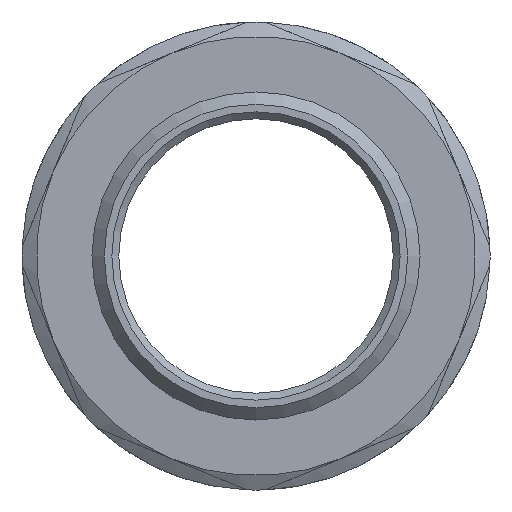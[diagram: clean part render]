
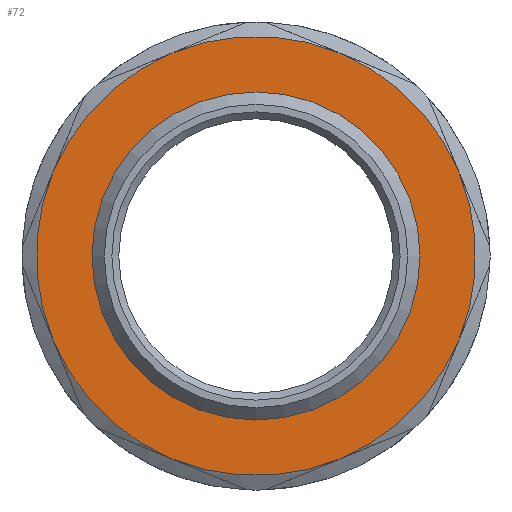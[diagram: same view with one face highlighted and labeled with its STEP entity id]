
A CAD part, front view. The second image highlights one B-rep face of the part: STEP entity #72.
In plain terms, the highlighted planar face has unit normal (0, -1, 0).
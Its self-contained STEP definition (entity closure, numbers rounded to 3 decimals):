
#72=ADVANCED_FACE('',(#288,#290),#292,.F.);
#288=FACE_BOUND('',#289,.T.);
#289=EDGE_LOOP('',(#466,#467,#468,#469,#470));
#290=FACE_BOUND('',#291,.T.);
#291=EDGE_LOOP('',(#471));
#292=PLANE('',#293);
#293=AXIS2_PLACEMENT_3D('',#294,#295,#296);
#294=CARTESIAN_POINT('',(0.,-25.5,0.));
#295=DIRECTION('',(0.,1.,0.));
#296=DIRECTION('',(-1.,0.,0.));
#466=ORIENTED_EDGE('',*,*,#542,.T.);
#467=ORIENTED_EDGE('',*,*,#539,.T.);
#468=ORIENTED_EDGE('',*,*,#535,.T.);
#469=ORIENTED_EDGE('',*,*,#531,.T.);
#470=ORIENTED_EDGE('',*,*,#547,.T.);
#471=ORIENTED_EDGE('',*,*,#524,.F.);
#524=EDGE_CURVE('',#636,#636,#637,.T.);
#531=EDGE_CURVE('',#640,#645,#647,.F.);
#535=EDGE_CURVE('',#650,#640,#652,.F.);
#539=EDGE_CURVE('',#655,#650,#657,.F.);
#542=EDGE_CURVE('',#660,#655,#661,.F.);
#547=EDGE_CURVE('',#645,#660,#666,.F.);
#636=VERTEX_POINT('',#865);
#637=CIRCLE('',#866,23.902);
#640=VERTEX_POINT('',#875);
#645=VERTEX_POINT('',#1002);
#647=CIRCLE('',#1025,32.);
#650=VERTEX_POINT('',#1090);
#652=CIRCLE('',#1109,32.);
#655=VERTEX_POINT('',#1174);
#657=CIRCLE('',#1193,32.);
#660=VERTEX_POINT('',#1258);
#661=CIRCLE('',#1259,32.);
#666=CIRCLE('',#1360,32.);
#865=CARTESIAN_POINT('',(23.902,-25.5,0.));
#866=AXIS2_PLACEMENT_3D('',#867,#868,#869);
#867=CARTESIAN_POINT('',(0.,-25.5,0.));
#868=DIRECTION('',(0.,-1.,0.));
#869=DIRECTION('',(1.,0.,0.));
#875=CARTESIAN_POINT('',(-12.246,-25.5,29.564));
#1002=CARTESIAN_POINT('',(12.246,-25.5,-29.564));
#1025=AXIS2_PLACEMENT_3D('',#1026,#1027,#1028);
#1026=CARTESIAN_POINT('',(0.,-25.5,0.));
#1027=DIRECTION('',(0.,1.,0.));
#1028=DIRECTION('',(0.383,0.,-0.924));
#1090=CARTESIAN_POINT('',(12.246,-25.5,29.564));
#1109=AXIS2_PLACEMENT_3D('',#1110,#1111,#1112);
#1110=CARTESIAN_POINT('',(0.,-25.5,0.));
#1111=DIRECTION('',(0.,1.,0.));
#1112=DIRECTION('',(-0.383,0.,0.924));
#1174=CARTESIAN_POINT('',(29.564,-25.5,12.246));
#1193=AXIS2_PLACEMENT_3D('',#1194,#1195,#1196);
#1194=CARTESIAN_POINT('',(0.,-25.5,0.));
#1195=DIRECTION('',(0.,1.,0.));
#1196=DIRECTION('',(0.383,0.,0.924));
#1258=CARTESIAN_POINT('',(29.564,-25.5,-12.246));
#1259=AXIS2_PLACEMENT_3D('',#1260,#1261,#1262);
#1260=CARTESIAN_POINT('',(0.,-25.5,0.));
#1261=DIRECTION('',(0.,1.,0.));
#1262=DIRECTION('',(0.924,0.,0.383));
#1360=AXIS2_PLACEMENT_3D('',#1361,#1362,#1363);
#1361=CARTESIAN_POINT('',(0.,-25.5,0.));
#1362=DIRECTION('',(0.,1.,0.));
#1363=DIRECTION('',(0.924,0.,-0.383));
